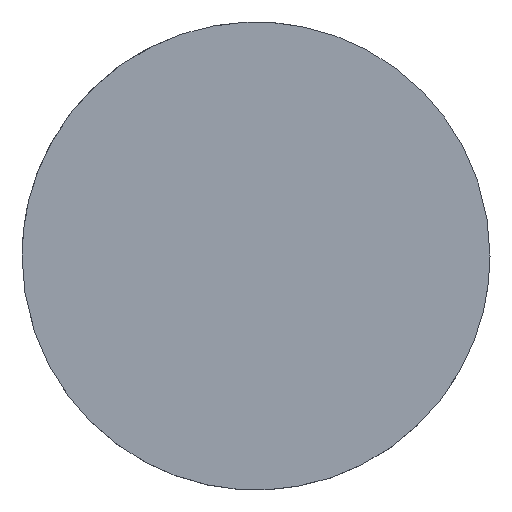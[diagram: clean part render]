
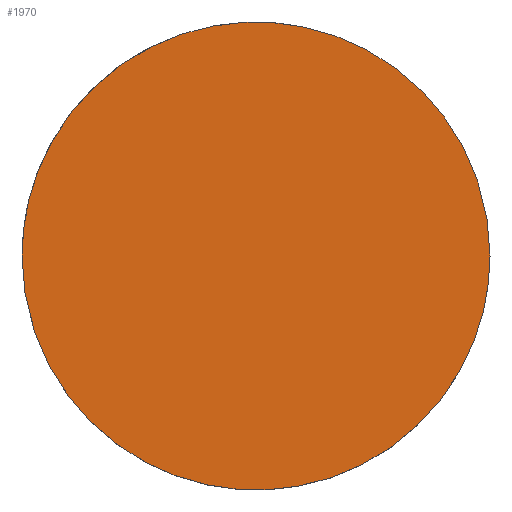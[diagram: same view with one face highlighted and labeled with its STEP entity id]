
A CAD part, top view. The second image highlights one B-rep face of the part: STEP entity #1970.
In plain terms, the highlighted planar face has unit normal (0, 0, 1).
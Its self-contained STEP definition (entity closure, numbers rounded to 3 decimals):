
#190 = CARTESIAN_POINT ('', (-25.4, 0., 0.));
#200 = VERTEX_POINT ('', #190);
#260 = CARTESIAN_POINT ('', (25.4, 0., 0.));
#270 = VERTEX_POINT ('', #260);
#280 = CARTESIAN_POINT ('', (25.4, 0., 0.));
#290 = CARTESIAN_POINT ('', (25.4, 25.4, 0.));
#300 = CARTESIAN_POINT ('', (0., 25.4, 0.));
#310 = CARTESIAN_POINT ('', (-25.4, 25.4, 0.));
#320 = CARTESIAN_POINT ('', (-25.4, 0., 0.));
#330 = (
   BOUNDED_CURVE ()
   B_SPLINE_CURVE (2, (#280, #290, #300, #310, #320), .UNSPECIFIED., .F., .U.)
   B_SPLINE_CURVE_WITH_KNOTS ((3, 2, 3), (0., 1.571, 3.142), .UNSPECIFIED.)
   CURVE ()
   GEOMETRIC_REPRESENTATION_ITEM ()
   RATIONAL_B_SPLINE_CURVE ((1., 0.707, 1., 0.707, 1.))
   REPRESENTATION_ITEM ('')
);
#340 = EDGE_CURVE ('', #270, #200, #330, .T.);
#580 = CARTESIAN_POINT ('', (-25.4, 0., 0.));
#590 = CARTESIAN_POINT ('', (-25.4, -25.4, 0.));
#600 = CARTESIAN_POINT ('', (0., -25.4, 0.));
#610 = CARTESIAN_POINT ('', (25.4, -25.4, 0.));
#620 = CARTESIAN_POINT ('', (25.4, 0., 0.));
#630 = (
   BOUNDED_CURVE ()
   B_SPLINE_CURVE (2, (#580, #590, #600, #610, #620), .UNSPECIFIED., .F., .U.)
   B_SPLINE_CURVE_WITH_KNOTS ((3, 2, 3), (3.142, 4.712, 6.283), .UNSPECIFIED.)
   CURVE ()
   GEOMETRIC_REPRESENTATION_ITEM ()
   RATIONAL_B_SPLINE_CURVE ((1., 0.707, 1., 0.707, 1.))
   REPRESENTATION_ITEM ('')
);
#640 = EDGE_CURVE ('', #200, #270, #630, .T.);
#1880 = ORIENTED_EDGE ('', *, *, #340, .T.);
#1890 = ORIENTED_EDGE ('', *, *, #640, .T.);
#1900 = EDGE_LOOP ('', (#1880, #1890));
#1910 = FACE_OUTER_BOUND ('', #1900, .T.);
#1920 = CARTESIAN_POINT ('', (0., 52.02, 0.));
#1930 = DIRECTION ('', (0., 0., 1.));
#1940 = DIRECTION ('', (-0.707, -0.707, 0.));
#1950 = AXIS2_PLACEMENT_3D ('', #1920, #1930, #1940);
#1960 = PLANE ('', #1950);
#1970 = ADVANCED_FACE ('', (#1910), #1960, .T.);
